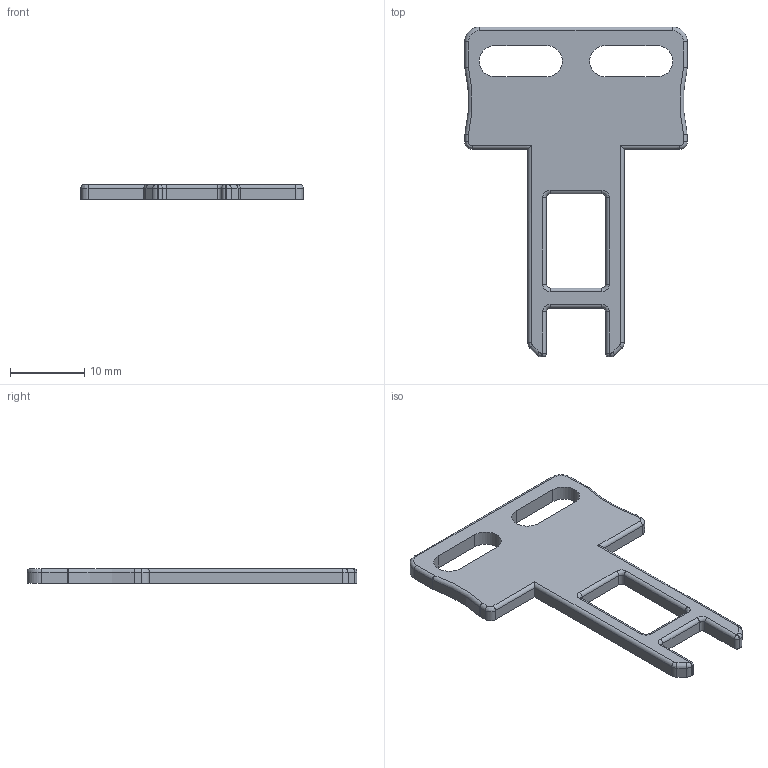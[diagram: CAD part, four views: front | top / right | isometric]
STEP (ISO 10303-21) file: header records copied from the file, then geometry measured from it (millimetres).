
FILE_DESCRIPTION((''),'2;1');
FILE_NAME('WANYAOSHI','2022-03-05T',('Administrator'),(''),'PRO/ENGINEER BY PARAMETRIC TECHNOLOGY CORPORATION, 2010280','PRO/ENGINEER BY PARAMETRIC TECHNOLOGY CORPORATION, 2010280','');
FILE_SCHEMA(('CONFIG_CONTROL_DESIGN'));
Length unit declared in the file: millimetre
Products named in the file (1): WANYAOSHI
Bounding box: 30 x 44.5 x 2 mm (x, y, z)
Volume: 1205 mm3; surface area: 1677.1 mm2
Topology: 1 solids, 1 shells, 94 faces, 230 edges, 136 vertices
Faces by surface type: cylinder 46, plane 26, torus 14, sphere 6, bspline 2
Entity records: 2822 total; most frequent: DIRECTION 518, CARTESIAN_POINT 506, ORIENTED_EDGE 456, EDGE_CURVE 228, AXIS2_PLACEMENT_3D 200, VERTEX_POINT 136, VECTOR 118, LINE 118
